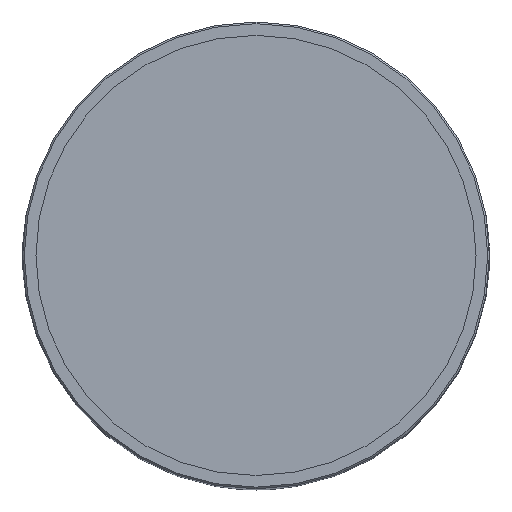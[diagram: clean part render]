
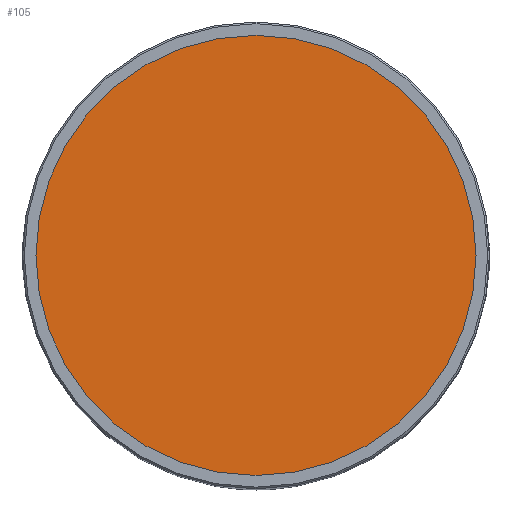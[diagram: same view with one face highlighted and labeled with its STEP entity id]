
A CAD part, top view. The second image highlights one B-rep face of the part: STEP entity #105.
In plain terms, the highlighted planar face has unit normal (0, 0, 1).
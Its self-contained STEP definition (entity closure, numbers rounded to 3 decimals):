
#94=PLANE('',#193);
#98=CIRCLE('',#192,33.);
#105=ADVANCED_FACE('',(#121),#94,.F.);
#121=FACE_OUTER_BOUND('',#127,.T.);
#127=EDGE_LOOP('',(#147));
#147=ORIENTED_EDGE('',*,*,#177,.F.);
#167=VERTEX_POINT('',#273);
#177=EDGE_CURVE('',#167,#167,#98,.T.);
#192=AXIS2_PLACEMENT_3D('',#272,#212,#213);
#193=AXIS2_PLACEMENT_3D('',#274,#214,#215);
#212=DIRECTION('',(0.,0.,-1.));
#213=DIRECTION('',(0.,-1.,0.));
#214=DIRECTION('',(0.,0.,-1.));
#215=DIRECTION('',(0.,1.,0.));
#272=CARTESIAN_POINT('',(0.,0.,100.));
#273=CARTESIAN_POINT('',(0.,-33.,100.));
#274=CARTESIAN_POINT('',(0.,-34.75,100.));
